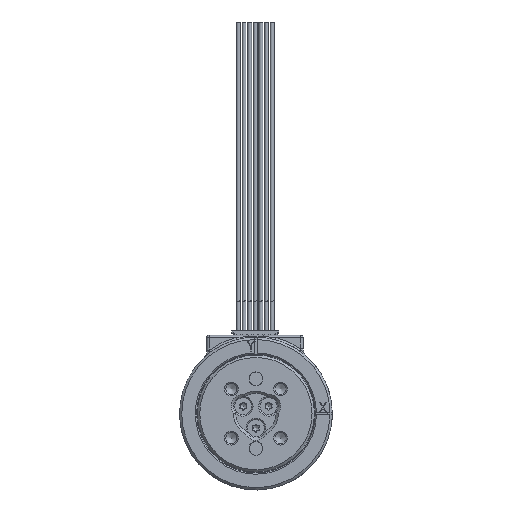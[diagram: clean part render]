
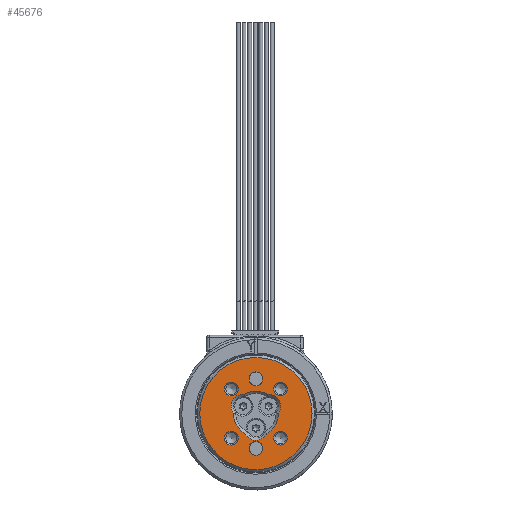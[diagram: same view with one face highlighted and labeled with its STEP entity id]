
A CAD part, top view. The second image highlights one B-rep face of the part: STEP entity #45676.
In plain terms, the highlighted planar face has unit normal (0, 0, 1).
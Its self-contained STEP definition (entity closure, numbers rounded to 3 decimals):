
#274 = FACE_BOUND ( 'NONE', #12412, .T. ) ;
#644 = CARTESIAN_POINT ( 'NONE',  ( 7.005, 5.48, 0. ) ) ;
#661 = CIRCLE ( 'NONE', #5306, 1.525 ) ;
#1962 = EDGE_LOOP ( 'NONE', ( #9188 ) ) ;
#2261 = DIRECTION ( 'NONE',  ( 0., 0., 1. ) ) ;
#2411 = ORIENTED_EDGE ( 'NONE', *, *, #7278, .T. ) ;
#2706 = DIRECTION ( 'NONE',  ( 0., 0., -1. ) ) ;
#2987 = EDGE_LOOP ( 'NONE', ( #39924 ) ) ;
#3046 = DIRECTION ( 'NONE',  ( 1., 0., 0. ) ) ;
#3426 = ORIENTED_EDGE ( 'NONE', *, *, #30017, .T. ) ;
#3482 = DIRECTION ( 'NONE',  ( 1., 0., 0. ) ) ;
#4050 = DIRECTION ( 'NONE',  ( 0., 0., 1. ) ) ;
#4330 = PLANE ( 'NONE',  #46691 ) ;
#5198 = FACE_BOUND ( 'NONE', #19721, .T. ) ;
#5306 = AXIS2_PLACEMENT_3D ( 'NONE', #19939, #2261, #50701 ) ;
#5539 = AXIS2_PLACEMENT_3D ( 'NONE', #39246, #44469, #8809 ) ;
#6150 = VERTEX_POINT ( 'NONE', #10516 ) ;
#6461 = CIRCLE ( 'NONE', #39756, 2.7 ) ;
#6740 = DIRECTION ( 'NONE',  ( 1., 0., 0. ) ) ;
#6925 = CARTESIAN_POINT ( 'NONE',  ( 0., -7.75, 0. ) ) ;
#7278 = EDGE_CURVE ( 'NONE', #38781, #48974, #51722, .T. ) ;
#7722 = EDGE_LOOP ( 'NONE', ( #35248, #2411, #3426, #46750, #43401, #56238 ) ) ;
#8690 = EDGE_CURVE ( 'NONE', #23934, #44641, #34998, .T. ) ;
#8809 = DIRECTION ( 'NONE',  ( 1., 0., 0. ) ) ;
#9061 = CIRCLE ( 'NONE', #17435, 1.525 ) ;
#9188 = ORIENTED_EDGE ( 'NONE', *, *, #40163, .F. ) ;
#9274 = CARTESIAN_POINT ( 'NONE',  ( 0., 0., 0. ) ) ;
#9554 = CARTESIAN_POINT ( 'NONE',  ( 2.815, 1.625, 0. ) ) ;
#9615 = CARTESIAN_POINT ( 'NONE',  ( 5., 0.039, 0. ) ) ;
#10113 = DIRECTION ( 'NONE',  ( 0., 0., 1. ) ) ;
#10516 = CARTESIAN_POINT ( 'NONE',  ( 1.525, -7.75, 0. ) ) ;
#12412 = EDGE_LOOP ( 'NONE', ( #23056 ) ) ;
#13663 = VERTEX_POINT ( 'NONE', #31302 ) ;
#16354 = DIRECTION ( 'NONE',  ( 1., 0., 0. ) ) ;
#16585 = CARTESIAN_POINT ( 'NONE',  ( 1.525, 7.75, 0. ) ) ;
#17304 = AXIS2_PLACEMENT_3D ( 'NONE', #9554, #22856, #29489 ) ;
#17435 = AXIS2_PLACEMENT_3D ( 'NONE', #49826, #10113, #41113 ) ;
#17446 = CARTESIAN_POINT ( 'NONE',  ( 2.466, -4.35, 0. ) ) ;
#17579 = CIRCLE ( 'NONE', #5539, 1.525 ) ;
#17674 = CIRCLE ( 'NONE', #43577, 12.5 ) ;
#17684 = EDGE_CURVE ( 'NONE', #13663, #13663, #9061, .T. ) ;
#18308 = ORIENTED_EDGE ( 'NONE', *, *, #19475, .F. ) ;
#19475 = EDGE_CURVE ( 'NONE', #45815, #45815, #34976, .T. ) ;
#19476 = CIRCLE ( 'NONE', #31518, 5. ) ;
#19721 = EDGE_LOOP ( 'NONE', ( #33335 ) ) ;
#19939 = CARTESIAN_POINT ( 'NONE',  ( -5.48, 5.48, 0. ) ) ;
#20142 = CARTESIAN_POINT ( 'NONE',  ( 0., -3.25, 0. ) ) ;
#21039 = EDGE_CURVE ( 'NONE', #24619, #23934, #6461, .T. ) ;
#21374 = AXIS2_PLACEMENT_3D ( 'NONE', #6925, #42288, #42567 ) ;
#21845 = DIRECTION ( 'NONE',  ( 0., 0., 1. ) ) ;
#22010 = DIRECTION ( 'NONE',  ( 0., 0., 1. ) ) ;
#22856 = DIRECTION ( 'NONE',  ( 0., 0., -1. ) ) ;
#23056 = ORIENTED_EDGE ( 'NONE', *, *, #17684, .F. ) ;
#23721 = CARTESIAN_POINT ( 'NONE',  ( -5., 0.039, 0. ) ) ;
#23901 = AXIS2_PLACEMENT_3D ( 'NONE', #26071, #47006, #3482 ) ;
#23934 = VERTEX_POINT ( 'NONE', #35732 ) ;
#24071 = EDGE_CURVE ( 'NONE', #38895, #38781, #19476, .T. ) ;
#24109 = CARTESIAN_POINT ( 'NONE',  ( 0., 0., 0. ) ) ;
#24144 = EDGE_LOOP ( 'NONE', ( #18308 ) ) ;
#24619 = VERTEX_POINT ( 'NONE', #23721 ) ;
#24656 = VERTEX_POINT ( 'NONE', #49945 ) ;
#25098 = CIRCLE ( 'NONE', #21374, 1.525 ) ;
#25209 = CARTESIAN_POINT ( 'NONE',  ( 0., 0., 0. ) ) ;
#26071 = CARTESIAN_POINT ( 'NONE',  ( 0., 0., 0. ) ) ;
#28937 = EDGE_LOOP ( 'NONE', ( #30332 ) ) ;
#29069 = CARTESIAN_POINT ( 'NONE',  ( -2.815, 1.625, 0. ) ) ;
#29489 = DIRECTION ( 'NONE',  ( 1., 0., 0. ) ) ;
#30017 = EDGE_CURVE ( 'NONE', #48974, #24619, #34001, .T. ) ;
#30208 = EDGE_CURVE ( 'NONE', #43280, #43280, #661, .T. ) ;
#30332 = ORIENTED_EDGE ( 'NONE', *, *, #49741, .T. ) ;
#30525 = DIRECTION ( 'NONE',  ( 1., 0., 0. ) ) ;
#31190 = CARTESIAN_POINT ( 'NONE',  ( 2.534, 4.31, 0. ) ) ;
#31302 = CARTESIAN_POINT ( 'NONE',  ( 7.005, -5.48, 0. ) ) ;
#31376 = EDGE_CURVE ( 'NONE', #44641, #38895, #49723, .T. ) ;
#31518 = AXIS2_PLACEMENT_3D ( 'NONE', #24109, #45603, #6740 ) ;
#33335 = ORIENTED_EDGE ( 'NONE', *, *, #50507, .F. ) ;
#33908 = DIRECTION ( 'NONE',  ( 1., 0., 0. ) ) ;
#34001 = CIRCLE ( 'NONE', #56265, 5. ) ;
#34976 = CIRCLE ( 'NONE', #51698, 1.525 ) ;
#34998 = CIRCLE ( 'NONE', #23901, 5. ) ;
#35157 = CARTESIAN_POINT ( 'NONE',  ( 0., 0., 0. ) ) ;
#35248 = ORIENTED_EDGE ( 'NONE', *, *, #24071, .T. ) ;
#35337 = FACE_BOUND ( 'NONE', #24144, .T. ) ;
#35348 = DIRECTION ( 'NONE',  ( 1., 0., 0. ) ) ;
#35626 = FACE_BOUND ( 'NONE', #43855, .T. ) ;
#35732 = CARTESIAN_POINT ( 'NONE',  ( -2.534, 4.31, 0. ) ) ;
#36778 = ORIENTED_EDGE ( 'NONE', *, *, #30208, .F. ) ;
#38109 = DIRECTION ( 'NONE',  ( 1., 0., 0. ) ) ;
#38409 = CIRCLE ( 'NONE', #53263, 1.525 ) ;
#38781 = VERTEX_POINT ( 'NONE', #17446 ) ;
#38895 = VERTEX_POINT ( 'NONE', #9615 ) ;
#39246 = CARTESIAN_POINT ( 'NONE',  ( 5.48, 5.48, 0. ) ) ;
#39413 = DIRECTION ( 'NONE',  ( 1., 0., 0. ) ) ;
#39756 = AXIS2_PLACEMENT_3D ( 'NONE', #29069, #2706, #16354 ) ;
#39924 = ORIENTED_EDGE ( 'NONE', *, *, #56284, .F. ) ;
#39987 = FACE_BOUND ( 'NONE', #7722, .T. ) ;
#40163 = EDGE_CURVE ( 'NONE', #40365, #40365, #17579, .T. ) ;
#40365 = VERTEX_POINT ( 'NONE', #644 ) ;
#41113 = DIRECTION ( 'NONE',  ( 1., 0., 0. ) ) ;
#42288 = DIRECTION ( 'NONE',  ( 0., 0., 1. ) ) ;
#42567 = DIRECTION ( 'NONE',  ( 1., 0., 0. ) ) ;
#43280 = VERTEX_POINT ( 'NONE', #56360 ) ;
#43293 = DIRECTION ( 'NONE',  ( 0., 0., 1. ) ) ;
#43401 = ORIENTED_EDGE ( 'NONE', *, *, #8690, .T. ) ;
#43501 = CARTESIAN_POINT ( 'NONE',  ( 0., 7.75, 0. ) ) ;
#43577 = AXIS2_PLACEMENT_3D ( 'NONE', #35157, #43293, #30525 ) ;
#43784 = FACE_BOUND ( 'NONE', #1962, .T. ) ;
#43855 = EDGE_LOOP ( 'NONE', ( #36778 ) ) ;
#44064 = FACE_BOUND ( 'NONE', #2987, .T. ) ;
#44469 = DIRECTION ( 'NONE',  ( 0., 0., 1. ) ) ;
#44641 = VERTEX_POINT ( 'NONE', #31190 ) ;
#45603 = DIRECTION ( 'NONE',  ( 0., 0., -1. ) ) ;
#45676 = ADVANCED_FACE ( 'NONE', ( #39987, #53943, #43784, #274, #35337, #35626, #44064, #5198 ), #4330, .T. ) ;
#45815 = VERTEX_POINT ( 'NONE', #50171 ) ;
#46691 = AXIS2_PLACEMENT_3D ( 'NONE', #9274, #4050, #39413 ) ;
#46750 = ORIENTED_EDGE ( 'NONE', *, *, #21039, .T. ) ;
#47006 = DIRECTION ( 'NONE',  ( 0., 0., -1. ) ) ;
#48974 = VERTEX_POINT ( 'NONE', #56945 ) ;
#49723 = CIRCLE ( 'NONE', #17304, 2.7 ) ;
#49741 = EDGE_CURVE ( 'NONE', #24656, #24656, #17674, .T. ) ;
#49826 = CARTESIAN_POINT ( 'NONE',  ( 5.48, -5.48, 0. ) ) ;
#49945 = CARTESIAN_POINT ( 'NONE',  ( 12.5, 0., 0. ) ) ;
#50171 = CARTESIAN_POINT ( 'NONE',  ( -3.955, -5.48, 0. ) ) ;
#50507 = EDGE_CURVE ( 'NONE', #6150, #6150, #25098, .T. ) ;
#50701 = DIRECTION ( 'NONE',  ( 1., 0., 0. ) ) ;
#51191 = DIRECTION ( 'NONE',  ( 0., 0., -1. ) ) ;
#51632 = DIRECTION ( 'NONE',  ( 0., 0., -1. ) ) ;
#51698 = AXIS2_PLACEMENT_3D ( 'NONE', #57262, #21845, #3046 ) ;
#51722 = CIRCLE ( 'NONE', #55451, 2.7 ) ;
#53263 = AXIS2_PLACEMENT_3D ( 'NONE', #43501, #22010, #35348 ) ;
#53943 = FACE_OUTER_BOUND ( 'NONE', #28937, .T. ) ;
#55451 = AXIS2_PLACEMENT_3D ( 'NONE', #20142, #51191, #38109 ) ;
#56238 = ORIENTED_EDGE ( 'NONE', *, *, #31376, .T. ) ;
#56265 = AXIS2_PLACEMENT_3D ( 'NONE', #25209, #51632, #33908 ) ;
#56284 = EDGE_CURVE ( 'NONE', #56293, #56293, #38409, .T. ) ;
#56293 = VERTEX_POINT ( 'NONE', #16585 ) ;
#56360 = CARTESIAN_POINT ( 'NONE',  ( -3.955, 5.48, 0. ) ) ;
#56945 = CARTESIAN_POINT ( 'NONE',  ( -2.466, -4.35, 0. ) ) ;
#57262 = CARTESIAN_POINT ( 'NONE',  ( -5.48, -5.48, 0. ) ) ;
